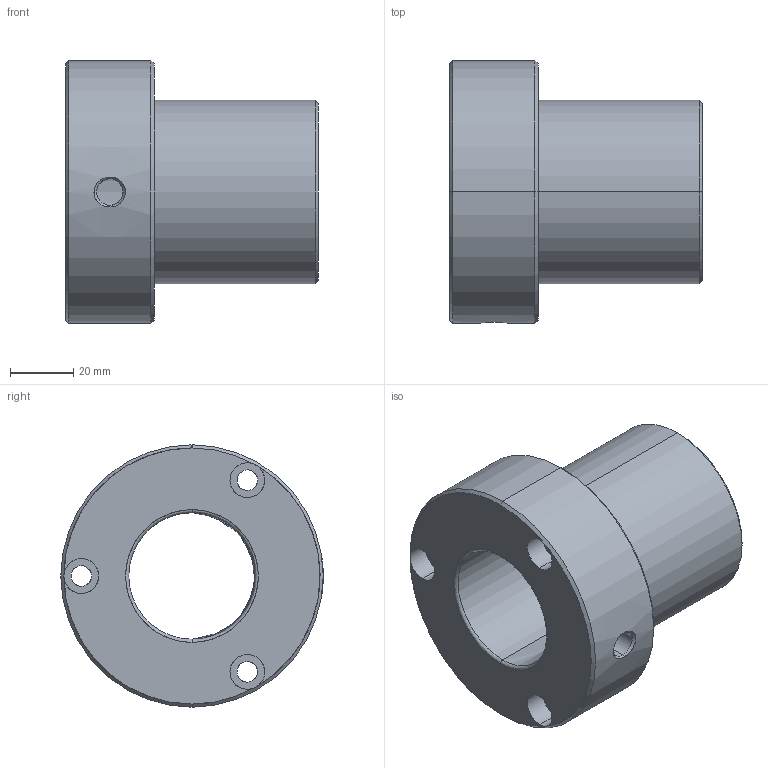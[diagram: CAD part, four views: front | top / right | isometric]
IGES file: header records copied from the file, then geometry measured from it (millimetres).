
Start section: START RECORD GO HERE.
Global section: file name: 345-40.igs; native system: DASSAULT SYSTEMES CATIA V5 R20 - www.3ds.com; preprocessor: CATIA Version 5 Release 20 ; author: Utente; organization: NB04-ASUS; date: 20201225.221445; units: millimetre
Bounding box: 80 x 83 x 83 mm (x, y, z)
Surface area: 36991 mm2 (no closed solid volume)
Topology: 0 solids, 0 shells, 39 faces, 298 edges, 296 vertices
Faces by surface type: revolution 32, plane 7
